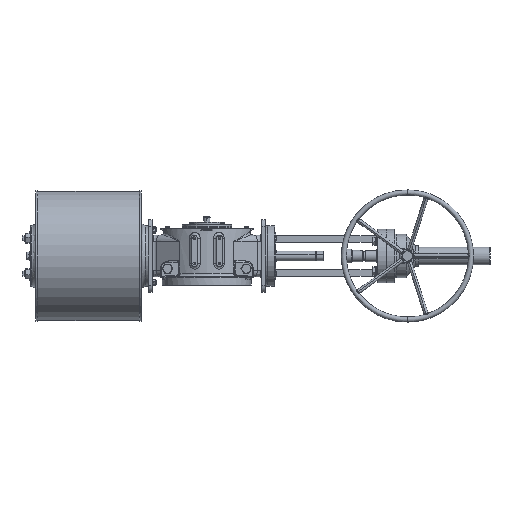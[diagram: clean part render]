
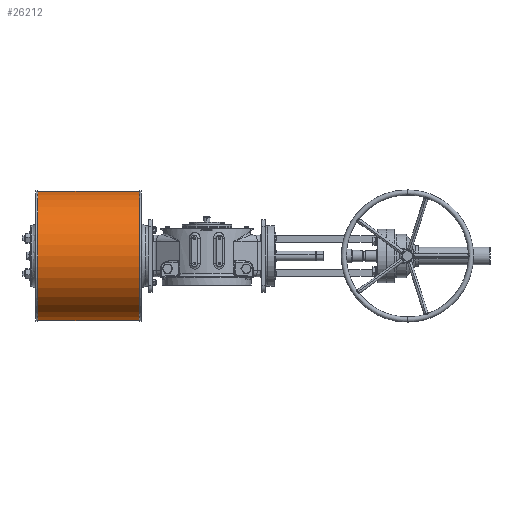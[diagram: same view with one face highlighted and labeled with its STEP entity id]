
A CAD part, front view. The second image highlights one B-rep face of the part: STEP entity #26212.
In plain terms, the highlighted cylindrical face has radius 254 mm (diameter 508 mm), a partial arc.
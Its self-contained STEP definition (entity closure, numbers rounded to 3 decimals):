
#2367 = AXIS2_PLACEMENT_3D ( 'NONE', #84059, #21399, #13631 ) ;
#4668 = ORIENTED_EDGE ( 'NONE', *, *, #35227, .T. ) ;
#4793 = CARTESIAN_POINT ( 'NONE',  ( -265.5, 108., 82.5 ) ) ;
#5540 = CIRCLE ( 'NONE', #47865, 254. ) ;
#5980 = CARTESIAN_POINT ( 'NONE',  ( -265.5, 108., 336.5 ) ) ;
#7655 = FACE_OUTER_BOUND ( 'NONE', #10710, .T. ) ;
#10710 = EDGE_LOOP ( 'NONE', ( #22772, #4668, #68540, #78212 ) ) ;
#12656 = CARTESIAN_POINT ( 'NONE',  ( -665.5, 108., 336.5 ) ) ;
#13631 = DIRECTION ( 'NONE',  ( 0., 0., 1. ) ) ;
#15167 = VERTEX_POINT ( 'NONE', #27037 ) ;
#18430 = VERTEX_POINT ( 'NONE', #84227 ) ;
#18537 = DIRECTION ( 'NONE',  ( 1., 0., 0. ) ) ;
#21399 = DIRECTION ( 'NONE',  ( -1., 0., 0. ) ) ;
#22425 = EDGE_CURVE ( 'NONE', #41055, #43943, #5540, .T. ) ;
#22772 = ORIENTED_EDGE ( 'NONE', *, *, #60372, .F. ) ;
#26212 = ADVANCED_FACE ( 'NONE', ( #7655 ), #56611, .T. ) ;
#26731 = DIRECTION ( 'NONE',  ( 0., 0., 1. ) ) ;
#27037 = CARTESIAN_POINT ( 'NONE',  ( -265.5, 108., -171.5 ) ) ;
#33885 = DIRECTION ( 'NONE',  ( -1., 0., 0. ) ) ;
#33888 = CIRCLE ( 'NONE', #45595, 254. ) ;
#35227 = EDGE_CURVE ( 'NONE', #15167, #18430, #33888, .T. ) ;
#38687 = DIRECTION ( 'NONE',  ( -1., 0., 0. ) ) ;
#41055 = VERTEX_POINT ( 'NONE', #12656 ) ;
#43943 = VERTEX_POINT ( 'NONE', #72760 ) ;
#45595 = AXIS2_PLACEMENT_3D ( 'NONE', #4793, #38687, #59708 ) ;
#47865 = AXIS2_PLACEMENT_3D ( 'NONE', #60631, #18537, #26731 ) ;
#56611 = CYLINDRICAL_SURFACE ( 'NONE', #2367, 254. ) ;
#59708 = DIRECTION ( 'NONE',  ( 0., 0., 1. ) ) ;
#60372 = EDGE_CURVE ( 'NONE', #15167, #43943, #84474, .T. ) ;
#60631 = CARTESIAN_POINT ( 'NONE',  ( -665.5, 108., 82.5 ) ) ;
#62540 = DIRECTION ( 'NONE',  ( -1., 0., 0. ) ) ;
#62825 = VECTOR ( 'NONE', #62540, 1000. ) ;
#63892 = CARTESIAN_POINT ( 'NONE',  ( -265.5, 108., -171.5 ) ) ;
#68036 = VECTOR ( 'NONE', #33885, 1000. ) ;
#68540 = ORIENTED_EDGE ( 'NONE', *, *, #71463, .T. ) ;
#71463 = EDGE_CURVE ( 'NONE', #18430, #41055, #83273, .T. ) ;
#72760 = CARTESIAN_POINT ( 'NONE',  ( -665.5, 108., -171.5 ) ) ;
#78212 = ORIENTED_EDGE ( 'NONE', *, *, #22425, .T. ) ;
#83273 = LINE ( 'NONE', #5980, #68036 ) ;
#84059 = CARTESIAN_POINT ( 'NONE',  ( -265.5, 108., 82.5 ) ) ;
#84227 = CARTESIAN_POINT ( 'NONE',  ( -265.5, 108., 336.5 ) ) ;
#84474 = LINE ( 'NONE', #63892, #62825 ) ;
